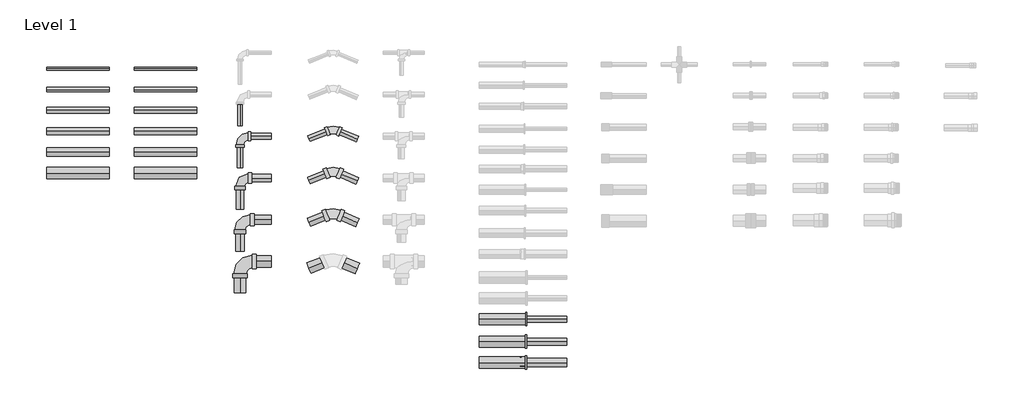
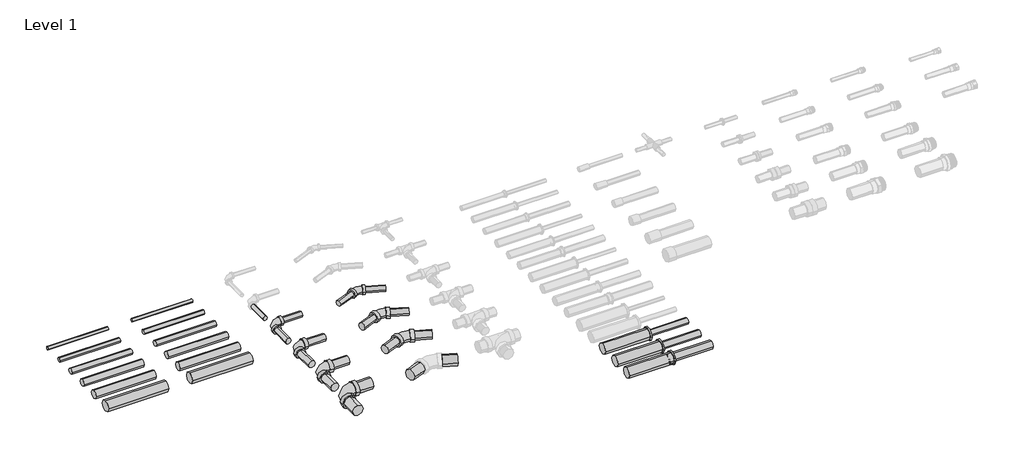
# One storey, part 1 of 5: 35 pipe segments, 10 pipe fittings.
"""IFC4 building model written with IfcOpenShell, lengths in millimetres."""

from ifc_helpers import new_model, si_unit, point, frame, frame_2d, origin, place, context, project, spatial, circle_curve, trimmed, segment, composite_curve, outline, extrude, transform, mapped, element, save
from components import standard_48d77e49, standard_b153bf5a, standard_cdc0e50c, standard_1eaeee76, standard_5be4a8bd, standard_14e32512, standard_42fb5c6e, standard_bbd5353f, standard_0e5dedbd, standard_3f7eeb25

model = new_model("IFC4")

# Units and contexts
model_context = context("Model", 3, world=origin())
ifc_project = project(units=[si_unit("LENGTHUNIT", "METRE", prefix="MILLI")], contexts=[model_context])

# Site, building, storey
site = spatial("IfcSite", under=ifc_project)
building = spatial("IfcBuilding", under=site)
storey = spatial("IfcBuildingStorey", under=building, Name="Level 1", Elevation=0.0)

# Pipe fittings
placement = place(None, origin())
standard_shape = standard_48d77e49(model_context)
element("IfcPipeFitting", 1, ObjectType="Elbow_45_90-Lubrizol-CPVC-FlowGuard_MX : Standard", at=placement, inside=storey, context=model_context, shape_type="MappedRepresentation", body=[
    mapped(standard_shape, transform((-13841.3400203, 6608.9751793, 0.0), x_axis=(-1.0, 0.0, 0.0), y_axis=(0.0, -1.0, 0.0), z_axis=(0.0, 0.0, 1.0))),
])
standard_2_shape = standard_b153bf5a(model_context)
element("IfcPipeFitting", 2, ObjectType="Elbow_45_90-Lubrizol-CPVC-FlowGuard_MX : Standard", at=placement, inside=storey, context=model_context, shape_type="MappedRepresentation", body=[
    mapped(standard_2_shape, transform((-13841.3400203, 6808.9751793, 0.0), x_axis=(-1.0, 0.0, 0.0), y_axis=(0.0, -1.0, 0.0), z_axis=(0.0, 0.0, 1.0))),
])
standard_3_shape = standard_cdc0e50c(model_context)
element("IfcPipeFitting", 3, ObjectType="Elbow_45_90-Lubrizol-CPVC-FlowGuard_MX : Standard", at=placement, inside=storey, context=model_context, shape_type="MappedRepresentation", body=[
    mapped(standard_3_shape, transform((-13841.3400203, 6408.9751793, 0.0), x_axis=(-1.0, 0.0, 0.0), y_axis=(0.0, -1.0, 0.0), z_axis=(0.0, 0.0, 1.0))),
])
standard_4_shape = standard_1eaeee76(model_context)
element("IfcPipeFitting", 4, ObjectType="Elbow_45_90-Lubrizol-CPVC-FlowGuard_MX : Standard", at=placement, inside=storey, context=model_context, shape_type="MappedRepresentation", body=[
    mapped(standard_4_shape, transform((-13841.3400203, 6208.9751793, 0.0), x_axis=(-1.0, 0.0, 0.0), y_axis=(0.0, -1.0, 0.0), z_axis=(0.0, 0.0, 1.0))),
])
standard_5_shape = standard_5be4a8bd(model_context)
element("IfcPipeFitting", 5, ObjectType="Elbow_45_90-Lubrizol-CPVC-FlowGuard_MX : Standard", at=placement, inside=storey, context=model_context, shape_type="MappedRepresentation", body=[
    mapped(standard_5_shape, transform((-13394.7066037, 6444.3191966, 0.0), x_axis=(-0.9205048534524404, 0.39073112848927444, 0.0), y_axis=(-0.3907311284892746, -0.9205048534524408, 0.0), z_axis=(0.0, 0.0, 1.0000000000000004))),
])
standard_6_shape = standard_14e32512(model_context)
element("IfcPipeFitting", 6, ObjectType="Elbow_45_90-Lubrizol-CPVC-FlowGuard_MX : Standard", at=placement, inside=storey, context=model_context, shape_type="MappedRepresentation", body=[
    mapped(standard_6_shape, transform((-13394.7066037, 6644.3191966, 0.0), x_axis=(-0.9205048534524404, 0.39073112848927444, 0.0), y_axis=(-0.3907311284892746, -0.9205048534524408, 0.0), z_axis=(0.0, 0.0, 1.0000000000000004))),
])
standard_7_shape = standard_42fb5c6e(model_context)
element("IfcPipeFitting", 7, ObjectType="Elbow_45_90-Lubrizol-CPVC-FlowGuard_MX : Standard", at=placement, inside=storey, context=model_context, shape_type="MappedRepresentation", body=[
    mapped(standard_7_shape, transform((-13394.7066037, 6844.3191966, 0.0), x_axis=(-0.9205048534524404, 0.39073112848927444, 0.0), y_axis=(-0.3907311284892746, -0.9205048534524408, 0.0), z_axis=(0.0, 0.0, 1.0000000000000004))),
])
standard_8_shape = standard_bbd5353f(model_context)
element("IfcPipeFitting", 8, ObjectType="Reducion Bushing_Lubrizol_CPVC_FlowGuard_MX : Standard", at=placement, inside=storey, context=model_context, shape_type="MappedRepresentation", body=[
    mapped(standard_8_shape, transform((-12496.6944232, 5932.702325, 0.0), x_axis=(1.0, 0.0, 0.0), y_axis=(0.0, 1.0, 0.0), z_axis=(0.0, 0.0, 1.0))),
])
standard_9_shape = standard_0e5dedbd(model_context)
element("IfcPipeFitting", 9, ObjectType="Reducion Bushing_Lubrizol_CPVC_FlowGuard_MX : Standard", at=placement, inside=storey, context=model_context, shape_type="MappedRepresentation", body=[
    mapped(standard_9_shape, transform((-12497.6044232, 5824.752325, 0.0), x_axis=(1.0, 0.0, 0.0), y_axis=(0.0, 1.0, 0.0), z_axis=(0.0, 0.0, 1.0))),
])
standard_10_shape = standard_3f7eeb25(model_context)
element("IfcPipeFitting", 10, ObjectType="Reducion Bushing_Lubrizol_CPVC_FlowGuard_MX : Standard", at=placement, inside=storey, context=model_context, shape_type="MappedRepresentation", body=[
    mapped(standard_10_shape, transform((-12498.3844232, 5724.752325, 0.0), x_axis=(1.0, 0.0, 0.0), y_axis=(0.0, 1.0, 0.0), z_axis=(0.0, 0.0, 1.0))),
])

# Pipe segments
element("IfcPipeSegment", 11, ObjectType="Lubrizol_Flow Guard SDR 13.5", at=placement, inside=storey, context=model_context, shape_type="SweptSolid", body=[
    extrude(outline(composite_curve([segment(trimmed(circle_curve(frame_2d((5932.702325, 0.0)), 14.3), [point((5918.402325, 0.0))], [point((5932.702325, 14.3))], False, "CARTESIAN"), True, "CONTINUOUS"), segment(trimmed(circle_curve(frame_2d((5932.702325, 0.0)), 14.3), [point((5932.702325, 14.3))], [point((5947.002325, 0.0))], False, "CARTESIAN"), True, "CONTINUOUS"), segment(trimmed(circle_curve(frame_2d((5932.702325, 0.0)), 14.3), [point((5947.002325, 0.0))], [point((5932.702325, -14.3))], False, "CARTESIAN"), True, "CONTINUOUS"), segment(trimmed(circle_curve(frame_2d((5932.702325, 0.0)), 14.3), [point((5932.702325, -14.3))], [point((5918.402325, 0.0))], False, "CARTESIAN"), True, "CONTINUOUS")], self_intersect=False)), frame((-12493.5694232, 0.0, 0.0), z_axis=(1.0, 0.0, 0.0), x_axis=(0.0, 1.0, 0.0)), (0.0, 0.0, 1.0), 218.6710937),
])
element("IfcPipeSegment", 12, ObjectType="Lubrizol_Flow Guard SDR 13.5", at=placement, inside=storey, context=model_context, shape_type="SweptSolid", body=[
    extrude(outline(composite_curve([segment(trimmed(circle_curve(frame_2d((5932.702325, 0.0)), 27.0), [point((5905.702325, 0.0))], [point((5932.702325, 27.0))], False, "CARTESIAN"), True, "CONTINUOUS"), segment(trimmed(circle_curve(frame_2d((5932.702325, 0.0)), 27.0), [point((5932.702325, 27.0))], [point((5959.702325, 0.0))], False, "CARTESIAN"), True, "CONTINUOUS"), segment(trimmed(circle_curve(frame_2d((5932.702325, 0.0)), 27.0), [point((5959.702325, 0.0))], [point((5932.702325, -27.0))], False, "CARTESIAN"), True, "CONTINUOUS"), segment(trimmed(circle_curve(frame_2d((5932.702325, 0.0)), 27.0), [point((5932.702325, -27.0))], [point((5905.702325, 0.0))], False, "CARTESIAN"), True, "CONTINUOUS")], self_intersect=False)), frame((-12695.1344232, 0.0, 0.0), z_axis=(1.0, 0.0, 0.0), x_axis=(0.0, 1.0, 0.0)), (0.0, 0.0, 1.0), 222.215),
])
element("IfcPipeSegment", 13, ObjectType="Lubrizol_Flow Guard SDR 13.5", at=placement, inside=storey, context=model_context, shape_type="SweptSolid", body=[
    extrude(outline(composite_curve([segment(trimmed(circle_curve(frame_2d((5824.752325, 0.0)), 17.45), [point((5807.302325, 0.0))], [point((5824.752325, 17.45))], False, "CARTESIAN"), True, "CONTINUOUS"), segment(trimmed(circle_curve(frame_2d((5824.752325, 0.0)), 17.45), [point((5824.752325, 17.45))], [point((5842.202325, 0.0))], False, "CARTESIAN"), True, "CONTINUOUS"), segment(trimmed(circle_curve(frame_2d((5824.752325, 0.0)), 17.45), [point((5842.202325, 0.0))], [point((5824.752325, -17.45))], False, "CARTESIAN"), True, "CONTINUOUS"), segment(trimmed(circle_curve(frame_2d((5824.752325, 0.0)), 17.45), [point((5824.752325, -17.45))], [point((5807.302325, 0.0))], False, "CARTESIAN"), True, "CONTINUOUS")], self_intersect=False)), frame((-12493.6044232, 0.0, 0.0), z_axis=(1.0, 0.0, 0.0), x_axis=(0.0, 1.0, 0.0)), (0.0, 0.0, 1.0), 218.7060937),
])
element("IfcPipeSegment", 14, ObjectType="Lubrizol_Flow Guard SDR 13.5", at=placement, inside=storey, context=model_context, shape_type="SweptSolid", body=[
    extrude(outline(composite_curve([segment(trimmed(circle_curve(frame_2d((5824.752325, 0.0)), 27.0), [point((5797.752325, 0.0))], [point((5824.752325, 27.0))], False, "CARTESIAN"), True, "CONTINUOUS"), segment(trimmed(circle_curve(frame_2d((5824.752325, 0.0)), 27.0), [point((5824.752325, 27.0))], [point((5851.752325, 0.0))], False, "CARTESIAN"), True, "CONTINUOUS"), segment(trimmed(circle_curve(frame_2d((5824.752325, 0.0)), 27.0), [point((5851.752325, 0.0))], [point((5824.752325, -27.0))], False, "CARTESIAN"), True, "CONTINUOUS"), segment(trimmed(circle_curve(frame_2d((5824.752325, 0.0)), 27.0), [point((5824.752325, -27.0))], [point((5797.752325, 0.0))], False, "CARTESIAN"), True, "CONTINUOUS")], self_intersect=False)), frame((-12695.1344232, 0.0, 0.0), z_axis=(1.0, 0.0, 0.0), x_axis=(0.0, 1.0, 0.0)), (0.0, 0.0, 1.0), 221.312),
])
element("IfcPipeSegment", 15, ObjectType="Lubrizol_Flow Guard SDR 13.5", at=placement, inside=storey, context=model_context, shape_type="SweptSolid", body=[
    extrude(outline(composite_curve([segment(trimmed(circle_curve(frame_2d((5724.752325, 0.0)), 20.65), [point((5704.102325, 0.0))], [point((5724.752325, 20.65))], False, "CARTESIAN"), True, "CONTINUOUS"), segment(trimmed(circle_curve(frame_2d((5724.752325, 0.0)), 20.65), [point((5724.752325, 20.65))], [point((5745.402325, 0.0))], False, "CARTESIAN"), True, "CONTINUOUS"), segment(trimmed(circle_curve(frame_2d((5724.752325, 0.0)), 20.65), [point((5745.402325, 0.0))], [point((5724.752325, -20.65))], False, "CARTESIAN"), True, "CONTINUOUS"), segment(trimmed(circle_curve(frame_2d((5724.752325, 0.0)), 20.65), [point((5724.752325, -20.65))], [point((5704.102325, 0.0))], False, "CARTESIAN"), True, "CONTINUOUS")], self_intersect=False)), frame((-12493.6344232, 0.0, 0.0), z_axis=(1.0, 0.0, 0.0), x_axis=(0.0, 1.0, 0.0)), (0.0, 0.0, 1.0), 218.7360937),
])
element("IfcPipeSegment", 16, ObjectType="Lubrizol_Flow Guard SDR 13.5", at=placement, inside=storey, context=model_context, shape_type="SweptSolid", body=[
    extrude(outline(composite_curve([segment(trimmed(circle_curve(frame_2d((5724.752325, 0.0)), 27.0), [point((5697.752325, 0.0))], [point((5724.752325, 27.0))], False, "CARTESIAN"), True, "CONTINUOUS"), segment(trimmed(circle_curve(frame_2d((5724.752325, 0.0)), 27.0), [point((5724.752325, 27.0))], [point((5751.752325, 0.0))], False, "CARTESIAN"), True, "CONTINUOUS"), segment(trimmed(circle_curve(frame_2d((5724.752325, 0.0)), 27.0), [point((5751.752325, 0.0))], [point((5724.752325, -27.0))], False, "CARTESIAN"), True, "CONTINUOUS"), segment(trimmed(circle_curve(frame_2d((5724.752325, 0.0)), 27.0), [point((5724.752325, -27.0))], [point((5697.752325, 0.0))], False, "CARTESIAN"), True, "CONTINUOUS")], self_intersect=False)), frame((-12695.1344232, 0.0, 0.0), z_axis=(1.0, 0.0, 0.0), x_axis=(0.0, 1.0, 0.0)), (0.0, 0.0, 1.0), 220.538),
])
element("IfcPipeSegment", 17, ObjectType="Lubrizol_Flow Guard SDR 11", at=placement, inside=storey, context=model_context, shape_type="SweptSolid", body=[
    extrude(outline(composite_curve([segment(trimmed(circle_curve(frame_2d((7132.702325, 0.0)), 7.95), [point((7124.752325, 0.0))], [point((7132.702325, 7.95))], False, "CARTESIAN"), True, "CONTINUOUS"), segment(trimmed(circle_curve(frame_2d((7132.702325, 0.0)), 7.95), [point((7132.702325, 7.95))], [point((7140.652325, 0.0))], False, "CARTESIAN"), True, "CONTINUOUS"), segment(trimmed(circle_curve(frame_2d((7132.702325, 0.0)), 7.95), [point((7140.652325, 0.0))], [point((7132.702325, -7.95))], False, "CARTESIAN"), True, "CONTINUOUS"), segment(trimmed(circle_curve(frame_2d((7132.702325, 0.0)), 7.95), [point((7132.702325, -7.95))], [point((7124.752325, 0.0))], False, "CARTESIAN"), True, "CONTINUOUS")], self_intersect=False)), frame((-14768.2475158, 0.0, 0.0), z_axis=(1.0, 0.0, 0.0), x_axis=(0.0, 1.0, 0.0)), (0.0, 0.0, 1.0), 300.0),
])
element("IfcPipeSegment", 18, ObjectType="Lubrizol_Flow Guard SDR 11", at=placement, inside=storey, context=model_context, shape_type="SweptSolid", body=[
    extrude(outline(composite_curve([segment(trimmed(circle_curve(frame_2d((7032.702325, 0.0)), 11.1), [point((7021.602325, 0.0))], [point((7032.702325, 11.1))], False, "CARTESIAN"), True, "CONTINUOUS"), segment(trimmed(circle_curve(frame_2d((7032.702325, 0.0)), 11.1), [point((7032.702325, 11.1))], [point((7043.802325, 0.0))], False, "CARTESIAN"), True, "CONTINUOUS"), segment(trimmed(circle_curve(frame_2d((7032.702325, 0.0)), 11.1), [point((7043.802325, 0.0))], [point((7032.702325, -11.1))], False, "CARTESIAN"), True, "CONTINUOUS"), segment(trimmed(circle_curve(frame_2d((7032.702325, 0.0)), 11.1), [point((7032.702325, -11.1))], [point((7021.602325, 0.0))], False, "CARTESIAN"), True, "CONTINUOUS")], self_intersect=False)), frame((-14768.2475158, 0.0, 0.0), z_axis=(1.0, 0.0, 0.0), x_axis=(0.0, 1.0, 0.0)), (0.0, 0.0, 1.0), 300.0),
])
element("IfcPipeSegment", 19, ObjectType="Lubrizol_Flow Guard SDR 11", at=placement, inside=storey, context=model_context, shape_type="SweptSolid", body=[
    extrude(outline(composite_curve([segment(trimmed(circle_curve(frame_2d((6932.702325, 0.0)), 14.3), [point((6918.402325, 0.0))], [point((6932.702325, 14.3))], False, "CARTESIAN"), True, "CONTINUOUS"), segment(trimmed(circle_curve(frame_2d((6932.702325, 0.0)), 14.3), [point((6932.702325, 14.3))], [point((6947.002325, 0.0))], False, "CARTESIAN"), True, "CONTINUOUS"), segment(trimmed(circle_curve(frame_2d((6932.702325, 0.0)), 14.3), [point((6947.002325, 0.0))], [point((6932.702325, -14.3))], False, "CARTESIAN"), True, "CONTINUOUS"), segment(trimmed(circle_curve(frame_2d((6932.702325, 0.0)), 14.3), [point((6932.702325, -14.3))], [point((6918.402325, 0.0))], False, "CARTESIAN"), True, "CONTINUOUS")], self_intersect=False)), frame((-14768.2475158, 0.0, 0.0), z_axis=(1.0, 0.0, 0.0), x_axis=(0.0, 1.0, 0.0)), (0.0, 0.0, 1.0), 300.0),
])
element("IfcPipeSegment", 20, ObjectType="Lubrizol_Flow Guard SDR 11", at=placement, inside=storey, context=model_context, shape_type="SweptSolid", body=[
    extrude(outline(composite_curve([segment(trimmed(circle_curve(frame_2d((6832.702325, 0.0)), 17.45), [point((6815.252325, 0.0))], [point((6832.702325, 17.45))], False, "CARTESIAN"), True, "CONTINUOUS"), segment(trimmed(circle_curve(frame_2d((6832.702325, 0.0)), 17.45), [point((6832.702325, 17.45))], [point((6850.152325, 0.0))], False, "CARTESIAN"), True, "CONTINUOUS"), segment(trimmed(circle_curve(frame_2d((6832.702325, 0.0)), 17.45), [point((6850.152325, 0.0))], [point((6832.702325, -17.45))], False, "CARTESIAN"), True, "CONTINUOUS"), segment(trimmed(circle_curve(frame_2d((6832.702325, 0.0)), 17.45), [point((6832.702325, -17.45))], [point((6815.252325, 0.0))], False, "CARTESIAN"), True, "CONTINUOUS")], self_intersect=False)), frame((-14768.2475158, 0.0, 0.0), z_axis=(1.0, 0.0, 0.0), x_axis=(0.0, 1.0, 0.0)), (0.0, 0.0, 1.0), 300.0),
])
element("IfcPipeSegment", 21, ObjectType="Lubrizol_Flow Guard SDR 11", at=placement, inside=storey, context=model_context, shape_type="SweptSolid", body=[
    extrude(outline(composite_curve([segment(trimmed(circle_curve(frame_2d((6732.702325, 0.0)), 20.65), [point((6712.052325, 0.0))], [point((6732.702325, 20.65))], False, "CARTESIAN"), True, "CONTINUOUS"), segment(trimmed(circle_curve(frame_2d((6732.702325, 0.0)), 20.65), [point((6732.702325, 20.65))], [point((6753.352325, 0.0))], False, "CARTESIAN"), True, "CONTINUOUS"), segment(trimmed(circle_curve(frame_2d((6732.702325, 0.0)), 20.65), [point((6753.352325, 0.0))], [point((6732.702325, -20.65))], False, "CARTESIAN"), True, "CONTINUOUS"), segment(trimmed(circle_curve(frame_2d((6732.702325, 0.0)), 20.65), [point((6732.702325, -20.65))], [point((6712.052325, 0.0))], False, "CARTESIAN"), True, "CONTINUOUS")], self_intersect=False)), frame((-14768.2475158, 0.0, 0.0), z_axis=(1.0, 0.0, 0.0), x_axis=(0.0, 1.0, 0.0)), (0.0, 0.0, 1.0), 300.0),
])
element("IfcPipeSegment", 22, ObjectType="Lubrizol_Flow Guard SDR 11", at=placement, inside=storey, context=model_context, shape_type="SweptSolid", body=[
    extrude(outline(composite_curve([segment(trimmed(circle_curve(frame_2d((6632.702325, 0.0)), 27.0), [point((6605.702325, 0.0))], [point((6632.702325, 27.0))], False, "CARTESIAN"), True, "CONTINUOUS"), segment(trimmed(circle_curve(frame_2d((6632.702325, 0.0)), 27.0), [point((6632.702325, 27.0))], [point((6659.702325, 0.0))], False, "CARTESIAN"), True, "CONTINUOUS"), segment(trimmed(circle_curve(frame_2d((6632.702325, 0.0)), 27.0), [point((6659.702325, 0.0))], [point((6632.702325, -27.0))], False, "CARTESIAN"), True, "CONTINUOUS"), segment(trimmed(circle_curve(frame_2d((6632.702325, 0.0)), 27.0), [point((6632.702325, -27.0))], [point((6605.702325, 0.0))], False, "CARTESIAN"), True, "CONTINUOUS")], self_intersect=False)), frame((-14768.2475158, 0.0, 0.0), z_axis=(1.0, 0.0, 0.0), x_axis=(0.0, 1.0, 0.0)), (0.0, 0.0, 1.0), 300.0),
])
element("IfcPipeSegment", 23, ObjectType="Lubrizol_Flow Guard SDR 13.5", at=placement, inside=storey, context=model_context, shape_type="SweptSolid", body=[
    extrude(outline(composite_curve([segment(trimmed(circle_curve(frame_2d((7132.702325, 0.0)), 7.95), [point((7124.752325, 0.0))], [point((7132.702325, 7.95))], False, "CARTESIAN"), True, "CONTINUOUS"), segment(trimmed(circle_curve(frame_2d((7132.702325, 0.0)), 7.95), [point((7132.702325, 7.95))], [point((7140.652325, 0.0))], False, "CARTESIAN"), True, "CONTINUOUS"), segment(trimmed(circle_curve(frame_2d((7132.702325, 0.0)), 7.95), [point((7140.652325, 0.0))], [point((7132.702325, -7.95))], False, "CARTESIAN"), True, "CONTINUOUS"), segment(trimmed(circle_curve(frame_2d((7132.702325, 0.0)), 7.95), [point((7132.702325, -7.95))], [point((7124.752325, 0.0))], False, "CARTESIAN"), True, "CONTINUOUS")], self_intersect=False)), frame((-14348.2475158, 0.0, 0.0), z_axis=(1.0, 0.0, 0.0), x_axis=(0.0, 1.0, 0.0)), (0.0, 0.0, 1.0), 300.0),
])
element("IfcPipeSegment", 24, ObjectType="Lubrizol_Flow Guard SDR 13.5", at=placement, inside=storey, context=model_context, shape_type="SweptSolid", body=[
    extrude(outline(composite_curve([segment(trimmed(circle_curve(frame_2d((7032.702325, 0.0)), 11.1), [point((7021.602325, 0.0))], [point((7032.702325, 11.1))], False, "CARTESIAN"), True, "CONTINUOUS"), segment(trimmed(circle_curve(frame_2d((7032.702325, 0.0)), 11.1), [point((7032.702325, 11.1))], [point((7043.802325, 0.0))], False, "CARTESIAN"), True, "CONTINUOUS"), segment(trimmed(circle_curve(frame_2d((7032.702325, 0.0)), 11.1), [point((7043.802325, 0.0))], [point((7032.702325, -11.1))], False, "CARTESIAN"), True, "CONTINUOUS"), segment(trimmed(circle_curve(frame_2d((7032.702325, 0.0)), 11.1), [point((7032.702325, -11.1))], [point((7021.602325, 0.0))], False, "CARTESIAN"), True, "CONTINUOUS")], self_intersect=False)), frame((-14348.2475158, 0.0, 0.0), z_axis=(1.0, 0.0, 0.0), x_axis=(0.0, 1.0, 0.0)), (0.0, 0.0, 1.0), 300.0),
])
element("IfcPipeSegment", 25, ObjectType="Lubrizol_Flow Guard SDR 13.5", at=placement, inside=storey, context=model_context, shape_type="SweptSolid", body=[
    extrude(outline(composite_curve([segment(trimmed(circle_curve(frame_2d((6932.702325, 0.0)), 14.3), [point((6918.402325, 0.0))], [point((6932.702325, 14.3))], False, "CARTESIAN"), True, "CONTINUOUS"), segment(trimmed(circle_curve(frame_2d((6932.702325, 0.0)), 14.3), [point((6932.702325, 14.3))], [point((6947.002325, 0.0))], False, "CARTESIAN"), True, "CONTINUOUS"), segment(trimmed(circle_curve(frame_2d((6932.702325, 0.0)), 14.3), [point((6947.002325, 0.0))], [point((6932.702325, -14.3))], False, "CARTESIAN"), True, "CONTINUOUS"), segment(trimmed(circle_curve(frame_2d((6932.702325, 0.0)), 14.3), [point((6932.702325, -14.3))], [point((6918.402325, 0.0))], False, "CARTESIAN"), True, "CONTINUOUS")], self_intersect=False)), frame((-14348.2475158, 0.0, 0.0), z_axis=(1.0, 0.0, 0.0), x_axis=(0.0, 1.0, 0.0)), (0.0, 0.0, 1.0), 300.0),
])
element("IfcPipeSegment", 26, ObjectType="Lubrizol_Flow Guard SDR 13.5", at=placement, inside=storey, context=model_context, shape_type="SweptSolid", body=[
    extrude(outline(composite_curve([segment(trimmed(circle_curve(frame_2d((6832.702325, 0.0)), 17.45), [point((6815.252325, 0.0))], [point((6832.702325, 17.45))], False, "CARTESIAN"), True, "CONTINUOUS"), segment(trimmed(circle_curve(frame_2d((6832.702325, 0.0)), 17.45), [point((6832.702325, 17.45))], [point((6850.152325, 0.0))], False, "CARTESIAN"), True, "CONTINUOUS"), segment(trimmed(circle_curve(frame_2d((6832.702325, 0.0)), 17.45), [point((6850.152325, 0.0))], [point((6832.702325, -17.45))], False, "CARTESIAN"), True, "CONTINUOUS"), segment(trimmed(circle_curve(frame_2d((6832.702325, 0.0)), 17.45), [point((6832.702325, -17.45))], [point((6815.252325, 0.0))], False, "CARTESIAN"), True, "CONTINUOUS")], self_intersect=False)), frame((-14348.2475158, 0.0, 0.0), z_axis=(1.0, 0.0, 0.0), x_axis=(0.0, 1.0, 0.0)), (0.0, 0.0, 1.0), 300.0),
])
element("IfcPipeSegment", 27, ObjectType="Lubrizol_Flow Guard SDR 13.5", at=placement, inside=storey, context=model_context, shape_type="SweptSolid", body=[
    extrude(outline(composite_curve([segment(trimmed(circle_curve(frame_2d((6732.702325, 0.0)), 20.65), [point((6712.052325, 0.0))], [point((6732.702325, 20.65))], False, "CARTESIAN"), True, "CONTINUOUS"), segment(trimmed(circle_curve(frame_2d((6732.702325, 0.0)), 20.65), [point((6732.702325, 20.65))], [point((6753.352325, 0.0))], False, "CARTESIAN"), True, "CONTINUOUS"), segment(trimmed(circle_curve(frame_2d((6732.702325, 0.0)), 20.65), [point((6753.352325, 0.0))], [point((6732.702325, -20.65))], False, "CARTESIAN"), True, "CONTINUOUS"), segment(trimmed(circle_curve(frame_2d((6732.702325, 0.0)), 20.65), [point((6732.702325, -20.65))], [point((6712.052325, 0.0))], False, "CARTESIAN"), True, "CONTINUOUS")], self_intersect=False)), frame((-14348.2475158, 0.0, 0.0), z_axis=(1.0, 0.0, 0.0), x_axis=(0.0, 1.0, 0.0)), (0.0, 0.0, 1.0), 300.0),
])
element("IfcPipeSegment", 28, ObjectType="Lubrizol_Flow Guard SDR 13.5", at=placement, inside=storey, context=model_context, shape_type="SweptSolid", body=[
    extrude(outline(composite_curve([segment(trimmed(circle_curve(frame_2d((6632.702325, 0.0)), 27.0), [point((6605.702325, 0.0))], [point((6632.702325, 27.0))], False, "CARTESIAN"), True, "CONTINUOUS"), segment(trimmed(circle_curve(frame_2d((6632.702325, 0.0)), 27.0), [point((6632.702325, 27.0))], [point((6659.702325, 0.0))], False, "CARTESIAN"), True, "CONTINUOUS"), segment(trimmed(circle_curve(frame_2d((6632.702325, 0.0)), 27.0), [point((6659.702325, 0.0))], [point((6632.702325, -27.0))], False, "CARTESIAN"), True, "CONTINUOUS"), segment(trimmed(circle_curve(frame_2d((6632.702325, 0.0)), 27.0), [point((6632.702325, -27.0))], [point((6605.702325, 0.0))], False, "CARTESIAN"), True, "CONTINUOUS")], self_intersect=False)), frame((-14348.2475158, 0.0, 0.0), z_axis=(1.0, 0.0, 0.0), x_axis=(0.0, 1.0, 0.0)), (0.0, 0.0, 1.0), 300.0),
])
element("IfcPipeSegment", 29, ObjectType="Lubrizol_Flow Guard SDR 13.5", at=placement, inside=storey, context=model_context, shape_type="SweptSolid", body=[
    extrude(outline(composite_curve([segment(trimmed(circle_curve(frame_2d((0.0, -13841.3400203)), 11.1), [point((0.0, -13830.2400203))], [point((11.1, -13841.3400203))], False, "CARTESIAN"), True, "CONTINUOUS"), segment(trimmed(circle_curve(frame_2d((0.0, -13841.3400203)), 11.1), [point((11.1, -13841.3400203))], [point((0.0, -13852.4400203))], False, "CARTESIAN"), True, "CONTINUOUS"), segment(trimmed(circle_curve(frame_2d((0.0, -13841.3400203)), 11.1), [point((0.0, -13852.4400203))], [point((-11.1, -13841.3400203))], False, "CARTESIAN"), True, "CONTINUOUS"), segment(trimmed(circle_curve(frame_2d((0.0, -13841.3400203)), 11.1), [point((-11.1, -13841.3400203))], [point((0.0, -13830.2400203))], False, "CARTESIAN"), True, "CONTINUOUS")], self_intersect=False)), frame((0.0, 6858.9751793, 0.0), z_axis=(0.0, 1.0, 0.0), x_axis=(0.0, 0.0, 1.0)), (0.0, 0.0, 1.0), 104.3459375),
])
element("IfcPipeSegment", 30, ObjectType="Lubrizol_Flow Guard SDR 13.5", at=placement, inside=storey, context=model_context, shape_type="SweptSolid", body=[
    extrude(outline(composite_curve([segment(trimmed(circle_curve(frame_2d((0.0, -13841.3400203)), 14.3), [point((0.0, -13827.0400203))], [point((14.3, -13841.3400203))], False, "CARTESIAN"), True, "CONTINUOUS"), segment(trimmed(circle_curve(frame_2d((0.0, -13841.3400203)), 14.3), [point((14.3, -13841.3400203))], [point((0.0, -13855.6400203))], False, "CARTESIAN"), True, "CONTINUOUS"), segment(trimmed(circle_curve(frame_2d((0.0, -13841.3400203)), 14.3), [point((0.0, -13855.6400203))], [point((-14.3, -13841.3400203))], False, "CARTESIAN"), True, "CONTINUOUS"), segment(trimmed(circle_curve(frame_2d((0.0, -13841.3400203)), 14.3), [point((-14.3, -13841.3400203))], [point((0.0, -13827.0400203))], False, "CARTESIAN"), True, "CONTINUOUS")], self_intersect=False)), frame((0.0, 6658.9751793, 0.0), z_axis=(0.0, 1.0, 0.0), x_axis=(0.0, 0.0, 1.0)), (0.0, 0.0, 1.0), 97.3859375),
])
element("IfcPipeSegment", 31, ObjectType="Lubrizol_Flow Guard SDR 13.5", at=placement, inside=storey, context=model_context, shape_type="SweptSolid", body=[
    extrude(outline(composite_curve([segment(trimmed(circle_curve(frame_2d((6808.9751793, 0.0)), 14.3), [point((6794.6751793, 0.0))], [point((6808.9751793, 14.3))], False, "CARTESIAN"), True, "CONTINUOUS"), segment(trimmed(circle_curve(frame_2d((6808.9751793, 0.0)), 14.3), [point((6808.9751793, 14.3))], [point((6823.2751793, 0.0))], False, "CARTESIAN"), True, "CONTINUOUS"), segment(trimmed(circle_curve(frame_2d((6808.9751793, 0.0)), 14.3), [point((6823.2751793, 0.0))], [point((6808.9751793, -14.3))], False, "CARTESIAN"), True, "CONTINUOUS"), segment(trimmed(circle_curve(frame_2d((6808.9751793, 0.0)), 14.3), [point((6808.9751793, -14.3))], [point((6794.6751793, 0.0))], False, "CARTESIAN"), True, "CONTINUOUS")], self_intersect=False)), frame((-13788.7259578, 0.0, 0.0), z_axis=(1.0, 0.0, 0.0), x_axis=(0.0, 1.0, 0.0)), (0.0, 0.0, 1.0), 97.3859375),
])
element("IfcPipeSegment", 32, ObjectType="Lubrizol_Flow Guard SDR 13.5", at=placement, inside=storey, context=model_context, shape_type="SweptSolid", body=[
    extrude(outline(composite_curve([segment(trimmed(circle_curve(frame_2d((0.0, -13841.3400203)), 17.45), [point((0.0, -13823.8900203))], [point((17.45, -13841.3400203))], False, "CARTESIAN"), True, "CONTINUOUS"), segment(trimmed(circle_curve(frame_2d((0.0, -13841.3400203)), 17.45), [point((17.45, -13841.3400203))], [point((0.0, -13858.7900203))], False, "CARTESIAN"), True, "CONTINUOUS"), segment(trimmed(circle_curve(frame_2d((0.0, -13841.3400203)), 17.45), [point((0.0, -13858.7900203))], [point((-17.45, -13841.3400203))], False, "CARTESIAN"), True, "CONTINUOUS"), segment(trimmed(circle_curve(frame_2d((0.0, -13841.3400203)), 17.45), [point((-17.45, -13841.3400203))], [point((0.0, -13823.8900203))], False, "CARTESIAN"), True, "CONTINUOUS")], self_intersect=False)), frame((0.0, 6458.9751793, 0.0), z_axis=(0.0, 1.0, 0.0), x_axis=(0.0, 0.0, 1.0)), (0.0, 0.0, 1.0), 92.85),
])
element("IfcPipeSegment", 33, ObjectType="Lubrizol_Flow Guard SDR 13.5", at=placement, inside=storey, context=model_context, shape_type="SweptSolid", body=[
    extrude(outline(composite_curve([segment(trimmed(circle_curve(frame_2d((6608.9751793, 0.0)), 17.45), [point((6591.5251793, 0.0))], [point((6608.9751793, 17.45))], False, "CARTESIAN"), True, "CONTINUOUS"), segment(trimmed(circle_curve(frame_2d((6608.9751793, 0.0)), 17.45), [point((6608.9751793, 17.45))], [point((6626.4251793, 0.0))], False, "CARTESIAN"), True, "CONTINUOUS"), segment(trimmed(circle_curve(frame_2d((6608.9751793, 0.0)), 17.45), [point((6626.4251793, 0.0))], [point((6608.9751793, -17.45))], False, "CARTESIAN"), True, "CONTINUOUS"), segment(trimmed(circle_curve(frame_2d((6608.9751793, 0.0)), 17.45), [point((6608.9751793, -17.45))], [point((6591.5251793, 0.0))], False, "CARTESIAN"), True, "CONTINUOUS")], self_intersect=False)), frame((-13784.1900203, 0.0, 0.0), z_axis=(1.0, 0.0, 0.0), x_axis=(0.0, 1.0, 0.0)), (0.0, 0.0, 1.0), 92.85),
])
element("IfcPipeSegment", 34, ObjectType="Lubrizol_Flow Guard SDR 13.5", at=placement, inside=storey, context=model_context, shape_type="SweptSolid", body=[
    extrude(outline(composite_curve([segment(trimmed(circle_curve(frame_2d((0.0, -13841.3400203)), 20.65), [point((0.0, -13820.6900203))], [point((20.65, -13841.3400203))], False, "CARTESIAN"), True, "CONTINUOUS"), segment(trimmed(circle_curve(frame_2d((0.0, -13841.3400203)), 20.65), [point((20.65, -13841.3400203))], [point((0.0, -13861.9900203))], False, "CARTESIAN"), True, "CONTINUOUS"), segment(trimmed(circle_curve(frame_2d((0.0, -13841.3400203)), 20.65), [point((0.0, -13861.9900203))], [point((-20.65, -13841.3400203))], False, "CARTESIAN"), True, "CONTINUOUS"), segment(trimmed(circle_curve(frame_2d((0.0, -13841.3400203)), 20.65), [point((-20.65, -13841.3400203))], [point((0.0, -13820.6900203))], False, "CARTESIAN"), True, "CONTINUOUS")], self_intersect=False)), frame((0.0, 6258.9751793, 0.0), z_axis=(0.0, 1.0, 0.0), x_axis=(0.0, 0.0, 1.0)), (0.0, 0.0, 1.0), 82.3059375),
])
element("IfcPipeSegment", 35, ObjectType="Lubrizol_Flow Guard SDR 13.5", at=placement, inside=storey, context=model_context, shape_type="SweptSolid", body=[
    extrude(outline(composite_curve([segment(trimmed(circle_curve(frame_2d((6408.9751793, 0.0)), 20.65), [point((6388.3251793, 0.0))], [point((6408.9751793, 20.65))], False, "CARTESIAN"), True, "CONTINUOUS"), segment(trimmed(circle_curve(frame_2d((6408.9751793, 0.0)), 20.65), [point((6408.9751793, 20.65))], [point((6429.6251793, 0.0))], False, "CARTESIAN"), True, "CONTINUOUS"), segment(trimmed(circle_curve(frame_2d((6408.9751793, 0.0)), 20.65), [point((6429.6251793, 0.0))], [point((6408.9751793, -20.65))], False, "CARTESIAN"), True, "CONTINUOUS"), segment(trimmed(circle_curve(frame_2d((6408.9751793, 0.0)), 20.65), [point((6408.9751793, -20.65))], [point((6388.3251793, 0.0))], False, "CARTESIAN"), True, "CONTINUOUS")], self_intersect=False)), frame((-13773.6459578, 0.0, 0.0), z_axis=(1.0, 0.0, 0.0), x_axis=(0.0, 1.0, 0.0)), (0.0, 0.0, 1.0), 82.3059375),
])
element("IfcPipeSegment", 36, ObjectType="Lubrizol_Flow Guard SDR 13.5", at=placement, inside=storey, context=model_context, shape_type="SweptSolid", body=[
    extrude(outline(composite_curve([segment(trimmed(circle_curve(frame_2d((0.0, -13841.3400203)), 27.0), [point((0.0, -13814.3400203))], [point((27.0, -13841.3400203))], False, "CARTESIAN"), True, "CONTINUOUS"), segment(trimmed(circle_curve(frame_2d((0.0, -13841.3400203)), 27.0), [point((27.0, -13841.3400203))], [point((0.0, -13868.3400203))], False, "CARTESIAN"), True, "CONTINUOUS"), segment(trimmed(circle_curve(frame_2d((0.0, -13841.3400203)), 27.0), [point((0.0, -13868.3400203))], [point((-27.0, -13841.3400203))], False, "CARTESIAN"), True, "CONTINUOUS"), segment(trimmed(circle_curve(frame_2d((0.0, -13841.3400203)), 27.0), [point((-27.0, -13841.3400203))], [point((0.0, -13814.3400203))], False, "CARTESIAN"), True, "CONTINUOUS")], self_intersect=False)), frame((0.0, 6058.9751793, 0.0), z_axis=(0.0, 1.0, 0.0), x_axis=(0.0, 0.0, 1.0)), (0.0, 0.0, 1.0), 72.1998),
])
element("IfcPipeSegment", 37, ObjectType="Lubrizol_Flow Guard SDR 13.5", at=placement, inside=storey, context=model_context, shape_type="SweptSolid", body=[
    extrude(outline(composite_curve([segment(trimmed(circle_curve(frame_2d((6208.9751793, 0.0)), 27.0), [point((6181.9751793, 0.0))], [point((6208.9751793, 27.0))], False, "CARTESIAN"), True, "CONTINUOUS"), segment(trimmed(circle_curve(frame_2d((6208.9751793, 0.0)), 27.0), [point((6208.9751793, 27.0))], [point((6235.9751793, 0.0))], False, "CARTESIAN"), True, "CONTINUOUS"), segment(trimmed(circle_curve(frame_2d((6208.9751793, 0.0)), 27.0), [point((6235.9751793, 0.0))], [point((6208.9751793, -27.0))], False, "CARTESIAN"), True, "CONTINUOUS"), segment(trimmed(circle_curve(frame_2d((6208.9751793, 0.0)), 27.0), [point((6208.9751793, -27.0))], [point((6181.9751793, 0.0))], False, "CARTESIAN"), True, "CONTINUOUS")], self_intersect=False)), frame((-13763.5398203, 0.0, 0.0), z_axis=(1.0, 0.0, 0.0), x_axis=(0.0, 1.0, 0.0)), (0.0, 0.0, 1.0), 72.1998),
])
element("IfcPipeSegment", 38, ObjectType="Lubrizol_Flow Guard SDR 13.5", at=placement, inside=storey, context=model_context, shape_type="SweptSolid", body=[
    extrude(outline(composite_curve([segment(trimmed(circle_curve(frame_2d((0.0, 14.3)), 14.3), [point((14.3000001, 14.3))], [point((0.0, 0.0))], False, "CARTESIAN"), True, "CONTINUOUS"), segment(trimmed(circle_curve(frame_2d((0.0, 14.3)), 14.3), [point((0.0, 0.0))], [point((-14.3, 14.3))], False, "CARTESIAN"), True, "CONTINUOUS"), segment(trimmed(circle_curve(frame_2d((0.0, 14.3)), 14.3), [point((-14.3, 14.3))], [point((0.0, 28.6))], False, "CARTESIAN"), True, "CONTINUOUS"), segment(trimmed(circle_curve(frame_2d((0.0, 14.3)), 14.3), [point((0.0, 28.6))], [point((14.3000001, 14.3))], False, "CARTESIAN"), True, "CONTINUOUS")], self_intersect=False)), frame((-13511.2092833, 6797.2490587, 14.3), z_axis=(0.9271838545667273, 0.37460659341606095, 0.0), x_axis=(0.37460659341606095, -0.9271838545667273, 0.0)), (0.0, 0.0, 1.0), 88.96),
])
element("IfcPipeSegment", 39, ObjectType="Lubrizol_Flow Guard SDR 13.5", at=placement, inside=storey, context=model_context, shape_type="SweptSolid", body=[
    extrude(outline(composite_curve([segment(trimmed(circle_curve(frame_2d((0.0, -14.3)), 14.3), [point((-14.3, -14.3))], [point((0.0, 0.0))], False, "CARTESIAN"), True, "CONTINUOUS"), segment(trimmed(circle_curve(frame_2d((0.0, -14.3)), 14.3), [point((0.0, 0.0))], [point((14.3, -14.3))], False, "CARTESIAN"), True, "CONTINUOUS"), segment(trimmed(circle_curve(frame_2d((0.0, -14.3)), 14.3), [point((14.3, -14.3))], [point((0.0, -28.6))], False, "CARTESIAN"), True, "CONTINUOUS"), segment(trimmed(circle_curve(frame_2d((0.0, -14.3)), 14.3), [point((0.0, -28.6))], [point((-14.3, -14.3))], False, "CARTESIAN"), True, "CONTINUOUS")], self_intersect=False)), frame((-13279.0431553, 6795.2229756, -14.3), z_axis=(-0.9205048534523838, 0.39073112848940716, 0.0), x_axis=(0.39073112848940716, 0.9205048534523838, 0.0)), (0.0, 0.0, 1.0), 88.96),
])
element("IfcPipeSegment", 40, ObjectType="Lubrizol_Flow Guard SDR 13.5", at=placement, inside=storey, context=model_context, shape_type="SweptSolid", body=[
    extrude(outline(composite_curve([segment(trimmed(circle_curve(frame_2d((0.0, 17.45)), 17.45), [point((17.4500001, 17.45))], [point((0.0, 0.0))], False, "CARTESIAN"), True, "CONTINUOUS"), segment(trimmed(circle_curve(frame_2d((0.0, 17.45)), 17.45), [point((0.0, 0.0))], [point((-17.4499999, 17.45))], False, "CARTESIAN"), True, "CONTINUOUS"), segment(trimmed(circle_curve(frame_2d((0.0, 17.45)), 17.45), [point((-17.4499999, 17.45))], [point((0.0, 34.9))], False, "CARTESIAN"), True, "CONTINUOUS"), segment(trimmed(circle_curve(frame_2d((0.0, 17.45)), 17.45), [point((0.0, 34.9))], [point((17.4500001, 17.45))], False, "CARTESIAN"), True, "CONTINUOUS")], self_intersect=False)), frame((-13511.2092833, 6597.2490587, 17.45), z_axis=(0.9271838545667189, 0.37460659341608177, 0.0), x_axis=(0.37460659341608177, -0.9271838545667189, 0.0)), (0.0, 0.0, 1.0), 82.8023875),
])
element("IfcPipeSegment", 41, ObjectType="Lubrizol_Flow Guard SDR 13.5", at=placement, inside=storey, context=model_context, shape_type="SweptSolid", body=[
    extrude(outline(composite_curve([segment(trimmed(circle_curve(frame_2d((0.0, -17.45)), 17.45), [point((-17.45, -17.45))], [point((0.0, 0.0))], False, "CARTESIAN"), True, "CONTINUOUS"), segment(trimmed(circle_curve(frame_2d((0.0, -17.45)), 17.45), [point((0.0, 0.0))], [point((17.45, -17.45))], False, "CARTESIAN"), True, "CONTINUOUS"), segment(trimmed(circle_curve(frame_2d((0.0, -17.45)), 17.45), [point((17.45, -17.45))], [point((0.0, -34.9))], False, "CARTESIAN"), True, "CONTINUOUS"), segment(trimmed(circle_curve(frame_2d((0.0, -17.45)), 17.45), [point((0.0, -34.9))], [point((-17.45, -17.45))], False, "CARTESIAN"), True, "CONTINUOUS")], self_intersect=False)), frame((-13279.0431553, 6595.2229756, -17.45), z_axis=(-0.9205048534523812, 0.3907311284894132, 0.0), x_axis=(0.3907311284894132, 0.9205048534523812, 0.0)), (0.0, 0.0, 1.0), 82.8023875),
])
element("IfcPipeSegment", 42, ObjectType="Lubrizol_Flow Guard SDR 13.5", at=placement, inside=storey, context=model_context, shape_type="SweptSolid", body=[
    extrude(outline(composite_curve([segment(trimmed(circle_curve(frame_2d((0.0, 20.65)), 20.65), [point((20.65, 20.65))], [point((0.0, 0.0))], False, "CARTESIAN"), True, "CONTINUOUS"), segment(trimmed(circle_curve(frame_2d((0.0, 20.65)), 20.65), [point((0.0, 0.0))], [point((-20.65, 20.65))], False, "CARTESIAN"), True, "CONTINUOUS"), segment(trimmed(circle_curve(frame_2d((0.0, 20.65)), 20.65), [point((-20.65, 20.65))], [point((0.0, 41.3))], False, "CARTESIAN"), True, "CONTINUOUS"), segment(trimmed(circle_curve(frame_2d((0.0, 20.65)), 20.65), [point((0.0, 41.3))], [point((20.65, 20.65))], False, "CARTESIAN"), True, "CONTINUOUS")], self_intersect=False)), frame((-13511.2092833, 6397.2490587, 20.65), z_axis=(0.9271838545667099, 0.37460659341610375, 0.0), x_axis=(0.37460659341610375, -0.9271838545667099, 0.0)), (0.0, 0.0, 1.0), 77.0),
])
element("IfcPipeSegment", 43, ObjectType="Lubrizol_Flow Guard SDR 13.5", at=placement, inside=storey, context=model_context, shape_type="SweptSolid", body=[
    extrude(outline(composite_curve([segment(trimmed(circle_curve(frame_2d((0.0, -20.65)), 20.65), [point((-20.6500001, -20.65))], [point((0.0, 0.0))], False, "CARTESIAN"), True, "CONTINUOUS"), segment(trimmed(circle_curve(frame_2d((0.0, -20.65)), 20.65), [point((0.0, 0.0))], [point((20.65, -20.65))], False, "CARTESIAN"), True, "CONTINUOUS"), segment(trimmed(circle_curve(frame_2d((0.0, -20.65)), 20.65), [point((20.65, -20.65))], [point((0.0, -41.3))], False, "CARTESIAN"), True, "CONTINUOUS"), segment(trimmed(circle_curve(frame_2d((0.0, -20.65)), 20.65), [point((0.0, -41.3))], [point((-20.6500001, -20.65))], False, "CARTESIAN"), True, "CONTINUOUS")], self_intersect=False)), frame((-13279.0431553, 6395.2229756, -20.65), z_axis=(-0.9205048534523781, 0.3907311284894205, 0.0), x_axis=(0.3907311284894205, 0.9205048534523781, 0.0)), (0.0, 0.0, 1.0), 77.0),
])
element("IfcPipeSegment", 44, ObjectType="Lubrizol_Flow Guard SDR 13.5", at=placement, inside=storey, context=model_context, shape_type="SweptSolid", body=[
    extrude(outline(composite_curve([segment(trimmed(circle_curve(frame_2d((0.0, 27.0)), 27.0), [point((27.0000001, 27.0))], [point((0.0, 0.0))], False, "CARTESIAN"), True, "CONTINUOUS"), segment(trimmed(circle_curve(frame_2d((0.0, 27.0)), 27.0), [point((0.0, 0.0))], [point((-26.9999999, 27.0))], False, "CARTESIAN"), True, "CONTINUOUS"), segment(trimmed(circle_curve(frame_2d((0.0, 27.0)), 27.0), [point((-26.9999999, 27.0))], [point((0.0, 54.0))], False, "CARTESIAN"), True, "CONTINUOUS"), segment(trimmed(circle_curve(frame_2d((0.0, 27.0)), 27.0), [point((0.0, 54.0))], [point((27.0000001, 27.0))], False, "CARTESIAN"), True, "CONTINUOUS")], self_intersect=False)), frame((-13511.2092833, 6177.2490587, 27.0), z_axis=(0.927183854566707, 0.3746065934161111, 0.0), x_axis=(0.3746065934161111, -0.927183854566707, 0.0)), (0.0, 0.0, 1.0), 68.5021875),
])
element("IfcPipeSegment", 45, ObjectType="Lubrizol_Flow Guard SDR 13.5", at=placement, inside=storey, context=model_context, shape_type="SweptSolid", body=[
    extrude(outline(composite_curve([segment(trimmed(circle_curve(frame_2d((0.0, -27.0)), 27.0), [point((-27.0000001, -27.0))], [point((0.0, 0.0))], False, "CARTESIAN"), True, "CONTINUOUS"), segment(trimmed(circle_curve(frame_2d((0.0, -27.0)), 27.0), [point((0.0, 0.0))], [point((27.0, -27.0))], False, "CARTESIAN"), True, "CONTINUOUS"), segment(trimmed(circle_curve(frame_2d((0.0, -27.0)), 27.0), [point((27.0, -27.0))], [point((0.0, -54.0))], False, "CARTESIAN"), True, "CONTINUOUS"), segment(trimmed(circle_curve(frame_2d((0.0, -27.0)), 27.0), [point((0.0, -54.0))], [point((-27.0000001, -27.0))], False, "CARTESIAN"), True, "CONTINUOUS")], self_intersect=False)), frame((-13279.0431553, 6175.2229756, -27.0), z_axis=(-0.9205048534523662, 0.3907311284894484, 0.0), x_axis=(0.3907311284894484, 0.9205048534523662, 0.0)), (0.0, 0.0, 1.0), 68.5021875),
])

save(model, "model.ifc")
